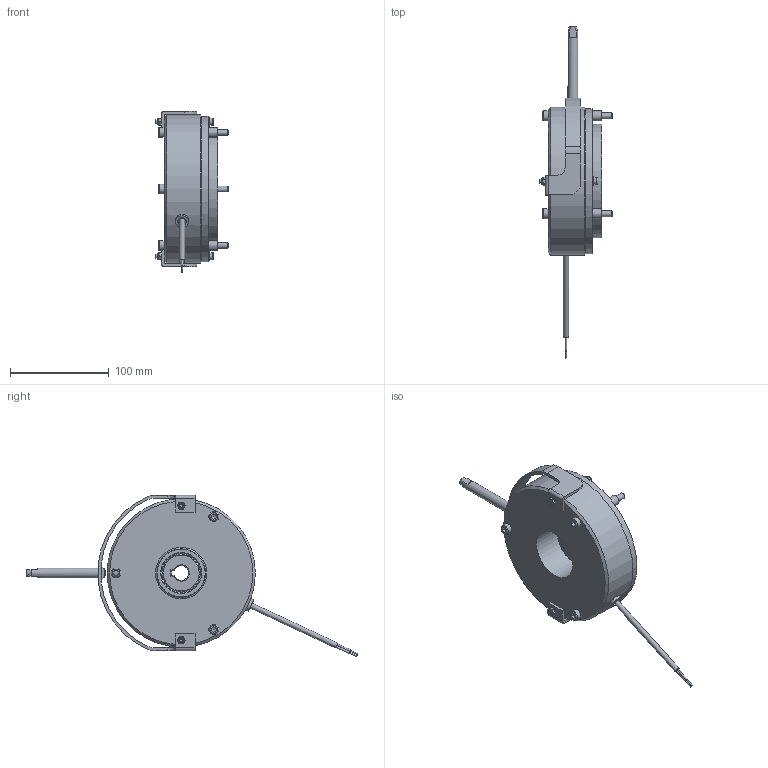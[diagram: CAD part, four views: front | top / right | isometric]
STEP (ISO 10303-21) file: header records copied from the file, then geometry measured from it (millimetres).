
FILE_DESCRIPTION(/* description */ (''),/* implementation_level */ '2;1');
FILE_NAME(/* name */ 'C:\SapWorkDir\Inventor\IP1\ConvertTempPath\5028674_IPT_000.ipt.stp',/* time_stamp */ '2020-09-16T16:00:36+02:00',/* author */ ('STRATE'),/* organization */ (''),/* preprocessor_version */ 'ST-DEVELOPER v17',/* originating_system */ 'Autodesk Inventor 2018',/* authorisation */ '');
FILE_SCHEMA (('AUTOMOTIVE_DESIGN { 1 0 10303 214 3 1 1 }'));
Length unit declared in the file: millimetre
Products named in the file (1): 5028674
Bounding box: 73.8 x 335.86 x 163.04 mm (x, y, z)
Volume: 823849.2 mm3; surface area: 143316.7 mm2
Topology: 3 solids, 3 shells, 494 faces, 1366 edges, 917 vertices
Faces by surface type: cylinder 314, plane 131, cone 37, torus 10, bspline 2
Full cylindrical faces by diameter (mm): 1 x2, 1.85 x2, 4 x4, 4.134 x2, 4.3 x2, 5 x2, 5.3 x1, 5.4 x2, 5.95 x2, 6 x4, 6.4 x3, 6.6 x1, 7 x2, 8.3 x2, 9 x2, 10 x7, 10.8 x6, 13.2 x1, 52 x2, 69.5 x2, 70.1 x2, 115 x1, 147 x1, 150 x1
Entity records: 20257 total; most frequent: CARTESIAN_POINT 7105, ORIENTED_EDGE 2726, DIRECTION 2537, EDGE_CURVE 1363, AXIS2_PLACEMENT_3D 1016, VERTEX_POINT 917, EDGE_LOOP 570, CIRCLE 523
